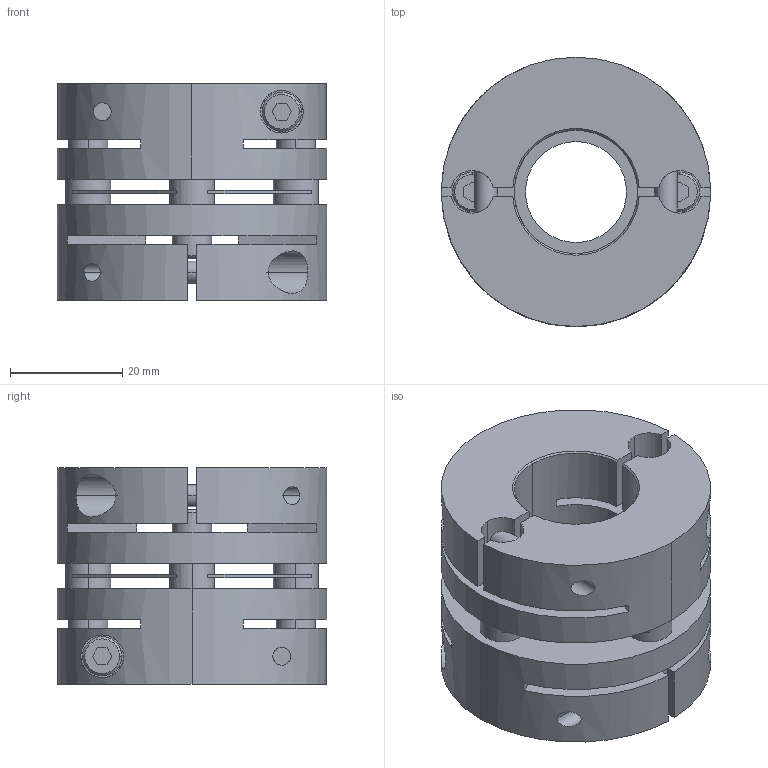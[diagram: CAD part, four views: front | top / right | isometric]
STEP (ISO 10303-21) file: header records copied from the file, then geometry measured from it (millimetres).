
FILE_DESCRIPTION((''),'2;1');
FILE_NAME('LAS-48C-19×22.stp','2015-10-14T15:50:22',(''),(''),'AutoCAD STEP 2000i','AutoCAD 2000i',', , ');
FILE_SCHEMA(('CONFIG_CONTROL_DESIGN'));
Length unit declared in the file: millimetre
Products named in the file (7): LAS-48C-19×19; 忣兜1; LA-4802-D19-1; LA-4802-D19; LA-4802-D12-1; LA-4802-D12; LAS48-ITA
Assembly tree (6 placements, depth 2):
  LAS-48C-19×19
    忣兜1
    LA-4802-D19-1
    LA-4802-D19
    LA-4802-D12-1
    LA-4802-D12
    LAS48-ITA
Bounding box: 48 x 48 x 38.6 mm (x, y, z)
Volume: 45485.4 mm3; surface area: 21562 mm2
Topology: 1 solids, 1 shells, 224 faces, 612 edges, 400 vertices
Faces by surface type: plane 112, cylinder 84, cone 28
Entity records: 8075 total; most frequent: CARTESIAN_POINT 2043, DIRECTION 1262, ORIENTED_EDGE 1224, EDGE_CURVE 612, AXIS2_PLACEMENT_3D 459, VERTEX_POINT 400, VECTOR 344, LINE 344
